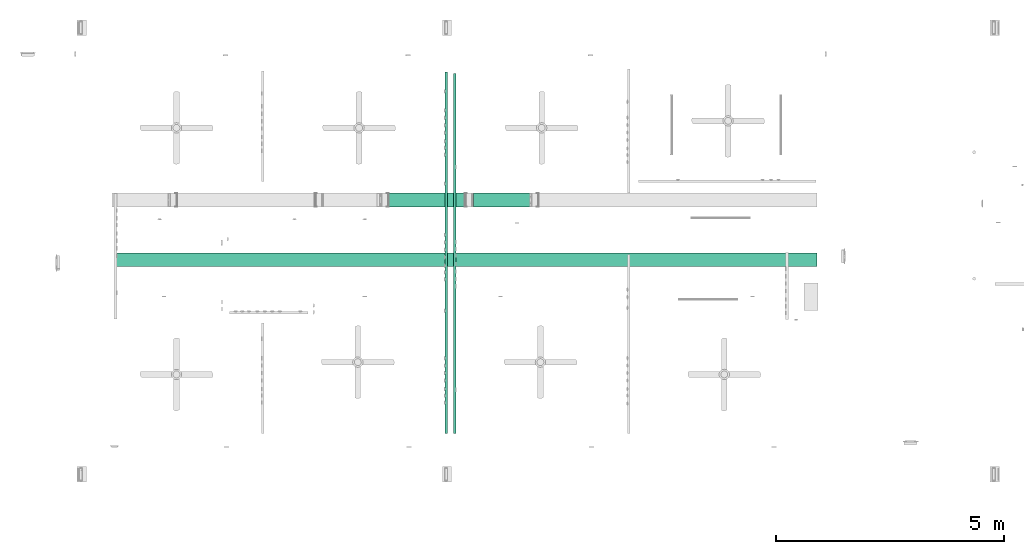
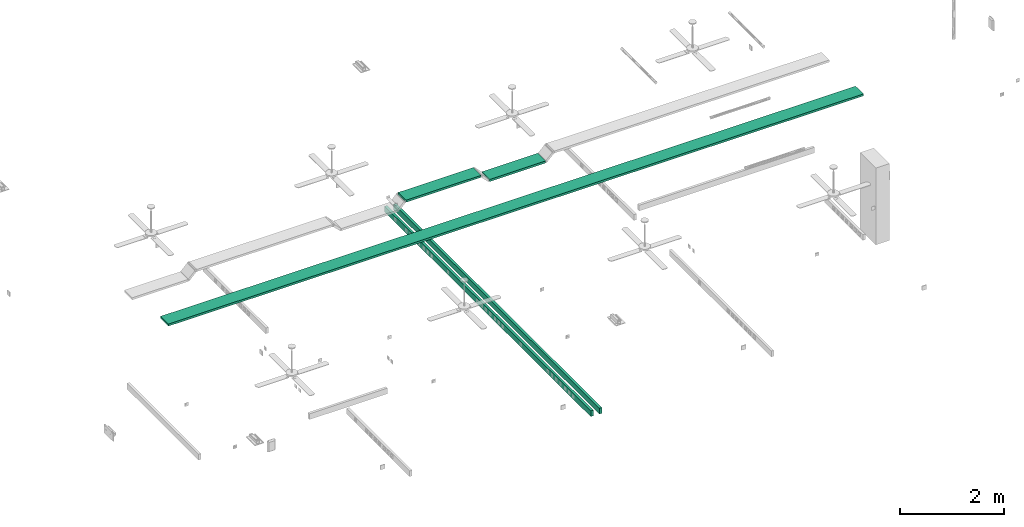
# One storey, part 4 of 166: 5 flow segments.
"""IFC2X3 building model written with IfcOpenShell, lengths in metres."""

import ifcopenshell
import ifcopenshell.guid

model = None  # the IFC model being written
_history = None  # IfcOwnerHistory: only IFC2X3 demands one
_inside = {}  # id of a spatial element -> (the spatial element, [elements in it])
_under = {}  # id of a project, library or spatial element -> (it, [spatial elements below it])
_declared = {}  # id of a project -> (the project, [libraries it declares])
_typed = {}  # id of a type object -> (the type object, [elements of that type])
_made_of = {}  # id of a material, layer set ... -> (it, [elements and type objects made of it])


def new_model(schema):
    """Start an empty IFC model of exactly this schema.

    Asked for "IFC4X3", IfcOpenShell would pick the latest addendum, in which some entities
    have other attributes; the version numbers below select the first issue.
    IFC2X3 requires an IfcOwnerHistory on every rooted entity: one is made here for all.
    """
    global model, _history
    if schema == "IFC4X3":
        model = ifcopenshell.file(schema_version=(4, 3, 0, 0))
    else:
        model = ifcopenshell.file(schema=schema)
    _inside.clear()
    _under.clear()
    _declared.clear()
    _typed.clear()
    _made_of.clear()
    _history = None
    if model.schema == "IFC2X3":
        org = make("IfcOrganization", Name="unknown")
        user = make(
            "IfcPersonAndOrganization",
            ThePerson=make("IfcPerson", FamilyName="unknown"),
            TheOrganization=org,
        )
        app = make(
            "IfcApplication",
            ApplicationDeveloper=org,
            Version="unknown",
            ApplicationFullName="unknown",
            ApplicationIdentifier="unknown",
        )
        _history = make(
            "IfcOwnerHistory",
            OwningUser=user,
            OwningApplication=app,
            ChangeAction="ADDED",
            CreationDate=0,
        )
    return model


def make(cls, **values):
    """One entity of the class cls with the attributes given. An attribute that is None is left unset."""
    return model.create_entity(
        cls, **{name: value for name, value in values.items() if value is not None}
    )


def entity(cls, *values):
    """Any entity or typed value of the class cls, its attributes in the order of the schema. None: left unset."""
    e = model.create_entity(cls)
    for i, value in enumerate(values):
        if value is not None:
            e[i] = value
    return e


def rooted(cls, **values):
    """An entity with a GlobalId (a new one), such as an element, a storey or a relation."""
    return make(cls, GlobalId=ifcopenshell.guid.new(), OwnerHistory=_history, **values)


def si_unit(unit_type, name, prefix=None):
    """IfcSIUnit, for example si_unit("LENGTHUNIT", "METRE", prefix="MILLI")."""
    return make("IfcSIUnit", UnitType=unit_type, Prefix=prefix, Name=name)


def converted_unit(unit_type, name, factor, base, dimensions=None, offset=None):
    """IfcConversionBasedUnit, such as the inch: factor (a typed value) times the base unit."""
    return make(
        "IfcConversionBasedUnit"
        if offset is None
        else "IfcConversionBasedUnitWithOffset",
        ConversionOffset=offset,
        Dimensions=None
        if dimensions is None
        else entity("IfcDimensionalExponents", *dimensions),
        UnitType=unit_type,
        Name=name,
        ConversionFactor=make(
            "IfcMeasureWithUnit", ValueComponent=factor, UnitComponent=base
        ),
    )


def derived_unit(unit_type, elements):
    """IfcDerivedUnit: a product of units, each with its exponent."""
    return make(
        "IfcDerivedUnit",
        Elements=[
            make("IfcDerivedUnitElement", Unit=unit, Exponent=power)
            for unit, power in elements
        ],
        UnitType=unit_type,
    )


def assignment(units):
    """IfcUnitAssignment: the units of a project."""
    return None if units is None else make("IfcUnitAssignment", Units=units)


def point(xyz):
    """IfcCartesianPoint."""
    return None if xyz is None else make("IfcCartesianPoint", Coordinates=xyz)


def direction(xyz):
    """IfcDirection."""
    return None if xyz is None else make("IfcDirection", DirectionRatios=xyz)


def frame(location, z_axis=None, x_axis=None):
    """IfcAxis2Placement3D, a coordinate frame: its origin and axes. An axis left out is left unset."""
    return make(
        "IfcAxis2Placement3D",
        Location=point(location),
        Axis=direction(z_axis),
        RefDirection=direction(x_axis),
    )


def frame_2d(location, x_axis=None):
    """IfcAxis2Placement2D, a coordinate frame in the plane: its origin and x axis."""
    return make(
        "IfcAxis2Placement2D", Location=point(location), RefDirection=direction(x_axis)
    )


def origin():
    """The frame at (0, 0, 0) with its axes left unset."""
    return frame((0.0, 0.0, 0.0))


def origin_2d_with_axis():
    """The frame at (0, 0) in the plane with the x axis (1, 0) written out."""
    return frame_2d((0.0, 0.0), x_axis=(1.0, 0.0))


def place(relative_to, where):
    """IfcLocalPlacement: puts the frame where relative to a parent placement (None: the world)."""
    return make(
        "IfcLocalPlacement", PlacementRelTo=relative_to, RelativePlacement=where
    )


def context(
    kind, dimensions, precision=None, world=None, true_north=None, identifier=None
):
    """IfcGeometricRepresentationContext, for example the 3D "Model" context."""
    return make(
        "IfcGeometricRepresentationContext",
        ContextIdentifier=identifier,
        ContextType=kind,
        CoordinateSpaceDimension=dimensions,
        Precision=precision,
        WorldCoordinateSystem=world,
        TrueNorth=true_north,
    )


def subcontext(parent, identifier, kind, view, scale=None):
    """IfcGeometricRepresentationSubContext, for example "Body" below "Model"."""
    return make(
        "IfcGeometricRepresentationSubContext",
        ContextIdentifier=identifier,
        ContextType=kind,
        ParentContext=parent,
        TargetScale=scale,
        TargetView=view,
    )


def project(units=None, contexts=None):
    """IfcProject with its units and contexts."""
    return rooted(
        "IfcProject",
        Name="project",
        RepresentationContexts=contexts,
        UnitsInContext=assignment(units),
    )


def spatial(cls, under=None, at=None, **own):
    """A site, building, storey or space (cls), placed at a placement, below another one or the project."""
    s = rooted(cls, ObjectPlacement=at, **own)
    if under is not None:
        _under.setdefault(under.id(), (under, []))[1].append(s)
    return s


def profile(cls, at=None, kind="AREA", **sizes):
    """A parametric profile (cls). Its sizes go by their IFC names, for example OverallWidth=200.0."""
    return make(cls, ProfileType=kind, Position=at, **sizes)


def rectangle(**sizes):
    """IfcRectangleProfileDef."""
    return profile("IfcRectangleProfileDef", **sizes)


def extrude(swept, where, along, depth):
    """IfcExtrudedAreaSolid: the profile swept, set in the frame where, extruded along a direction by depth."""
    return make(
        "IfcExtrudedAreaSolid",
        SweptArea=swept,
        Position=where,
        ExtrudedDirection=direction(along),
        Depth=depth,
    )


def shape(context_of_items, identifier, shape_type, items):
    """IfcShapeRepresentation: the items that make up one representation, for example the "Body"."""
    return make(
        "IfcShapeRepresentation",
        ContextOfItems=context_of_items,
        RepresentationIdentifier=identifier,
        RepresentationType=shape_type,
        Items=items,
    )


def made_of(thing, what):
    """Note that an element or type object is made of a material, layer set ...; save() writes the relation."""
    if what is not None:
        _made_of.setdefault(what.id(), (what, []))[1].append(thing)
    return thing


def type_object(cls, material=None, **own):
    """A type object (cls), such as IfcWallType, which elements share."""
    return made_of(rooted(cls, **own), material)


def element(
    cls,
    number,
    at=None,
    inside=None,
    cuts=None,
    type_object=None,
    material=None,
    context=None,
    identifier="Body",
    shape_type=None,
    held_by="IfcProductDefinitionShape",
    body=None,
    shapes=None,
    **own,
):
    """One element of the class cls, such as IfcWall. Its Tag is "e" and its number.

    at: its placement. inside: the storey or other place that contains it. cuts: it is an
    opening in that element (IfcRelVoidsElement). A single representation is given by context,
    identifier, shape_type and body (its items); several are given by shapes. held_by: the class
    of the entity that holds the representations. save() writes the other relations.
    """
    e = rooted(cls, Tag="e%d" % number, ObjectPlacement=at, **own)
    if body is not None:
        shapes = [shape(context, identifier, shape_type, body)]
    if shapes is not None:
        e.Representation = make(held_by, Representations=shapes)
    if inside is not None:
        _inside.setdefault(inside.id(), (inside, []))[1].append(e)
    if cuts is not None:
        rooted(
            "IfcRelVoidsElement", RelatingBuildingElement=cuts, RelatedOpeningElement=e
        )
    if type_object is not None:
        _typed.setdefault(type_object.id(), (type_object, []))[1].append(e)
    return made_of(e, material)


def aggregate(whole, parts):
    """IfcRelAggregates: a whole, such as a stair, and the parts it consists of."""
    return rooted("IfcRelAggregates", RelatingObject=whole, RelatedObjects=parts)


def save(model, path):
    """Write the relations noted so far, then the file.

    IfcRelAggregates (storeys below a building ...), IfcRelContainedInSpatialStructure (elements
    in a storey), IfcRelDefinesByType, IfcRelAssociatesMaterial and IfcRelDeclares: one each for
    every whole, place, type object, material and project.
    """
    for whole, parts in _under.values():
        aggregate(whole, parts)
    for where, things in _inside.values():
        rooted(
            "IfcRelContainedInSpatialStructure",
            RelatedElements=things,
            RelatingStructure=where,
        )
    for kind, things in _typed.values():
        rooted("IfcRelDefinesByType", RelatedObjects=things, RelatingType=kind)
    for what, things in _made_of.values():
        rooted("IfcRelAssociatesMaterial", RelatedObjects=things, RelatingMaterial=what)
    for by, libraries in _declared.values():
        rooted("IfcRelDeclares", RelatingContext=by, RelatedDefinitions=libraries)
    model.write(path)


model = new_model("IFC2X3")

# Units and contexts
model_context = context("Model", 3, precision=1e-05, world=origin(), true_north=direction((6.12303176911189e-17, 1.0)))
body_context = subcontext(model_context, "Body", "Model", "MODEL_VIEW")
ifc_project = project(units=[si_unit("LENGTHUNIT", "METRE"), si_unit("AREAUNIT", "SQUARE_METRE"), si_unit("VOLUMEUNIT", "CUBIC_METRE"), converted_unit("PLANEANGLEUNIT", "DEGREE", entity("IfcRatioMeasure", 0.0174532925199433), si_unit("PLANEANGLEUNIT", "RADIAN"), dimensions=[0, 0, 0, 0, 0, 0, 0]), si_unit("MASSUNIT", "GRAM", prefix="KILO"), derived_unit("MASSDENSITYUNIT", [(si_unit("MASSUNIT", "GRAM", prefix="KILO"), 1), (si_unit("LENGTHUNIT", "METRE"), -3)]), si_unit("TIMEUNIT", "SECOND"), si_unit("FREQUENCYUNIT", "HERTZ"), si_unit("THERMODYNAMICTEMPERATUREUNIT", "DEGREE_CELSIUS"), derived_unit("THERMALTRANSMITTANCEUNIT", [(si_unit("MASSUNIT", "GRAM", prefix="KILO"), 1), (si_unit("THERMODYNAMICTEMPERATUREUNIT", "KELVIN"), -1), (si_unit("TIMEUNIT", "SECOND"), -3)]), derived_unit("VOLUMETRICFLOWRATEUNIT", [(si_unit("LENGTHUNIT", "METRE"), 3), (si_unit("TIMEUNIT", "SECOND"), -1)]), si_unit("ELECTRICCURRENTUNIT", "AMPERE"), si_unit("ELECTRICVOLTAGEUNIT", "VOLT"), si_unit("POWERUNIT", "WATT"), si_unit("FORCEUNIT", "NEWTON"), si_unit("ILLUMINANCEUNIT", "LUX"), si_unit("LUMINOUSFLUXUNIT", "LUMEN"), si_unit("LUMINOUSINTENSITYUNIT", "CANDELA"), derived_unit("USERDEFINED", [(si_unit("MASSUNIT", "GRAM", prefix="KILO"), -1), (si_unit("LENGTHUNIT", "METRE"), -2), (si_unit("TIMEUNIT", "SECOND"), 3), (si_unit("LUMINOUSFLUXUNIT", "LUMEN"), 1)]), derived_unit("LINEARVELOCITYUNIT", [(si_unit("LENGTHUNIT", "METRE"), 1), (si_unit("TIMEUNIT", "SECOND"), -1)]), si_unit("PRESSUREUNIT", "PASCAL"), derived_unit("USERDEFINED", [(si_unit("LENGTHUNIT", "METRE"), -2), (si_unit("MASSUNIT", "GRAM", prefix="KILO"), 1), (si_unit("TIMEUNIT", "SECOND"), -2)])], contexts=[model_context])

# Site, building, storey
site_placement = place(None, origin())
site = spatial("IfcSite", under=ifc_project, at=site_placement, Name="Default", CompositionType="ELEMENT")
building_placement = place(site_placement, origin())
building = spatial("IfcBuilding", under=site, at=building_placement, CompositionType="ELEMENT")
storey_placement = place(building_placement, frame((0.0, 0.0, 4.27)))
storey = spatial("IfcBuildingStorey", under=building, at=storey_placement, Name="01", CompositionType="ELEMENT", Elevation=4.27)

# Flow segments
cable_carrier_segment_type_1 = type_object("IfcCableCarrierSegmentType", Name="Cable Tray with Fittings:Goulottes de câbles indéfini_Goulottes de câbles", PredefinedType="NOTDEFINED")
flow_segment_1_placement = place(storey_placement, origin())
element("IfcFlowSegment", 1, at=flow_segment_1_placement, inside=storey, type_object=cable_carrier_segment_type_1, Name="Cable Tray with Fittings:Goulottes de câbles indéfini_Goulottes de câbles", ObjectType="Cable Tray with Fittings:Goulottes de câbles indéfini_Goulottes de câbles", context=body_context, shape_type="SweptSolid", body=[
    extrude(rectangle(XDim=7.912, YDim=0.0559999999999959, at=frame_2d((0.0, -4.33160451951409e-15), x_axis=(1.0, 0.0))), frame((33.3947436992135, -189.242069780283, 0.366), z_axis=(0.0, 0.0, 1.0), x_axis=(0.0, 1.0, 0.0)), (0.0, 0.0, 1.0), 0.134),
])
flow_segment_2_placement = place(storey_placement, origin())
element("IfcFlowSegment", 2, at=flow_segment_2_placement, inside=storey, type_object=cable_carrier_segment_type_1, Name="Cable Tray with Fittings:Goulottes de câbles indéfini_Goulottes de câbles", ObjectType="Cable Tray with Fittings:Goulottes de câbles indéfini_Goulottes de câbles", context=body_context, shape_type="SweptSolid", body=[
    extrude(rectangle(XDim=7.89200000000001, YDim=0.0559999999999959, at=origin_2d_with_axis()), frame((33.5807436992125, -189.25785501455, 0.366), z_axis=(0.0, 0.0, 1.0), x_axis=(0.0, -1.0, 0.0)), (0.0, 0.0, 1.0), 0.134),
])
cable_carrier_segment_type_2 = type_object("IfcCableCarrierSegmentType", Name="Cable Tray with Fittings:Chemins de câbles en treillis_Chemins de câbles en treillis", PredefinedType="NOTDEFINED")
flow_segment_3_placement = place(storey_placement, origin())
element("IfcFlowSegment", 3, at=flow_segment_3_placement, inside=storey, type_object=cable_carrier_segment_type_2, Name="Cable Tray with Fittings:Chemins de câbles en treillis_Chemins de câbles en treillis", ObjectType="Cable Tray with Fittings:Chemins de câbles en treillis_Chemins de câbles en treillis", context=body_context, shape_type="SweptSolid", body=[
    extrude(rectangle(XDim=15.3976905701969, YDim=0.300000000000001, at=frame_2d((-3.99680288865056e-15, 0.0), x_axis=(1.0, 0.0))), frame((33.8165889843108, -189.396389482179, 2.80999999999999), z_axis=(0.0, 0.0, 1.0), x_axis=(-1.0, 0.0, 0.0)), (0.0, 0.0, 1.0), 0.0499999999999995),
])
flow_segment_4_placement = place(storey_placement, origin())
element("IfcFlowSegment", 4, at=flow_segment_4_placement, inside=storey, type_object=cable_carrier_segment_type_2, Name="Cable Tray with Fittings:Chemins de câbles en treillis_Chemins de câbles en treillis", ObjectType="Cable Tray with Fittings:Chemins de câbles en treillis_Chemins de câbles en treillis", context=body_context, shape_type="SweptSolid", body=[
    extrude(rectangle(XDim=1.66598336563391, YDim=0.299999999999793, at=frame_2d((4.32986979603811e-15, 0.0), x_axis=(1.0, 0.0))), frame((32.967885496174, -188.087883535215, 2.81000633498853), z_axis=(0.0, 0.0, 1.0), x_axis=(-1.0, 0.0, 0.0)), (0.0, 0.0, 1.0), 0.0499999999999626),
])
flow_segment_5_placement = place(storey_placement, origin())
element("IfcFlowSegment", 5, at=flow_segment_5_placement, inside=storey, type_object=cable_carrier_segment_type_2, Name="Cable Tray with Fittings:Chemins de câbles en treillis_Chemins de câbles en treillis", ObjectType="Cable Tray with Fittings:Chemins de câbles en treillis_Chemins de câbles en treillis", context=body_context, shape_type="SweptSolid", body=[
    extrude(rectangle(XDim=1.23808091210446, YDim=0.300000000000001, at=frame_2d((-2.16493489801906e-15, 0.0), x_axis=(1.0, 0.0))), frame((34.610885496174, -188.087883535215, 2.64595756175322), z_axis=(0.0, 0.0, 1.0), x_axis=(-1.0, 0.0, 0.0)), (0.0, 0.0, 1.0), 0.0499999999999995),
])

save(model, "model.ifc")
